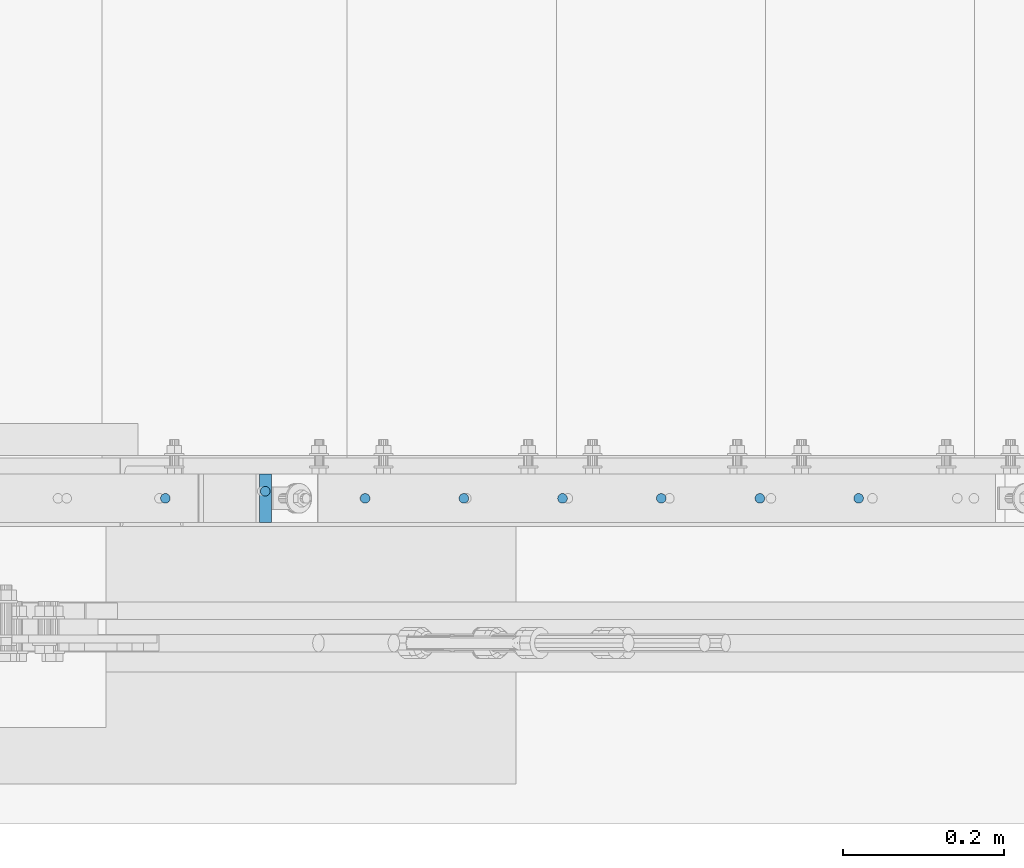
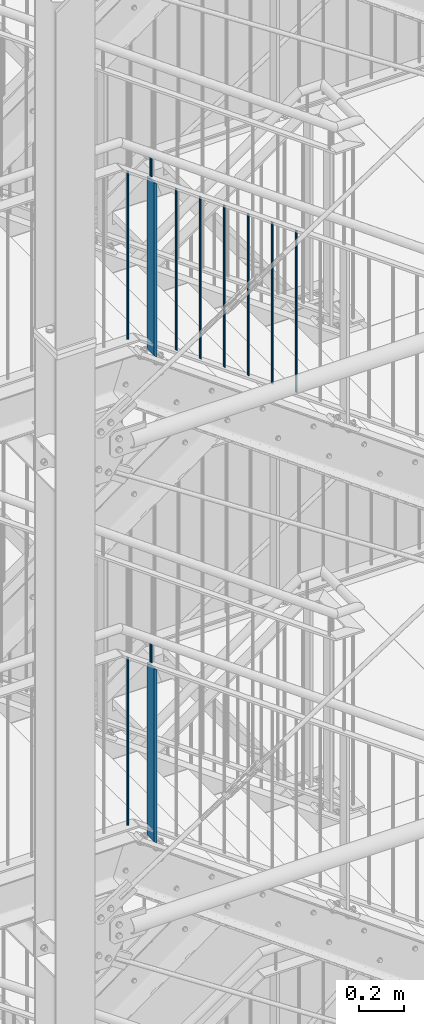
# One storey, part 36 of 831: 12 columns.
"""IFC2X3 building model written with IfcOpenShell, lengths in millimetres."""

from ifc_helpers import new_model, entity, si_unit, converted_unit, frame, origin, origin_with_axes, origin_2d, place, context, project, spatial, rectangle, circle, extrude, clip, halfspace, material, element, save


model = new_model("IFC2X3")

# Units and contexts
model_context = context("Model", 3, precision=1e-09, world=origin_with_axes())
ifc_project = project(units=[si_unit("LENGTHUNIT", "METRE", prefix="MILLI"), si_unit("AREAUNIT", "SQUARE_METRE"), si_unit("VOLUMEUNIT", "CUBIC_METRE"), converted_unit("PLANEANGLEUNIT", "DEGREE", entity("IfcPlaneAngleMeasure", 0.01745329), si_unit("PLANEANGLEUNIT", "RADIAN"), dimensions=[0, 0, 0, 0, 0, 0, 0])], contexts=[model_context])

# Site, building, storey
site_placement = place(None, origin_with_axes())
site = spatial("IfcSite", under=ifc_project, at=site_placement, Name="Site", CompositionType="ELEMENT")
building_placement = place(site_placement, origin_with_axes())
building = spatial("IfcBuilding", under=site, at=building_placement, Name="Struktur 1", CompositionType="ELEMENT")
storey_placement = place(building_placement, origin_with_axes())
storey = spatial("IfcBuildingStorey", under=building, at=storey_placement, Name="Default Storey", CompositionType="ELEMENT", Elevation=0.0)

# Columns
ifc_material = material(Name="S235JR")
column_1_placement = place(None, frame((5270.541831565, 4526.736971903, 10939.508705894), z_axis=(0.0, 0.0, 1.0), x_axis=(-1.0, 0.0, 0.0)))
element("IfcColumn", 1, at=column_1_placement, inside=storey, material=ifc_material, Name="Railing_Picket_Landing#76", ObjectType="Railing_Picket_Landing#76", context=model_context, shape_type="Clipping", body=[
    clip(extrude(circle(Radius=6.0, at=origin_2d()), origin(), (0.0, 0.0, -1.0), 917.508705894), halfspace(frame((-1728.344233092, 4526.736971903, -1260.198190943), z_axis=(0.585945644, 0.0, -0.810350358), x_axis=(0.0, 1.0, 0.0)), True)),
])
column_2_placement = place(None, frame((5394.791831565, 4535.536971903, 10962.006739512), z_axis=(0.0, 0.0, 1.0), x_axis=(0.0, 1.0, 0.0)))
element("IfcColumn", 2, at=column_2_placement, inside=storey, material=ifc_material, Name="Bar#11", ObjectType="Bar#11", context=model_context, shape_type="Clipping", body=[
    clip(clip(extrude(circle(Radius=6.0, at=origin_2d()), origin(), (0.0, 0.0, -1.0), 120.942253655), halfspace(frame((-4535.536971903, -1609.954861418, -1274.591100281), z_axis=(0.0, -0.585945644, 0.810350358), x_axis=(1.0, 0.0, 0.0)), True)), halfspace(frame((-4535.536971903, -1657.435815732, -1208.925950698), z_axis=(0.0, 0.585945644, -0.810350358), x_axis=(-1.0, 0.0, 0.0)), True)),
])
column_3_placement = place(None, frame((5394.791831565, 4526.736971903, 10877.355669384), z_axis=(0.0, 0.0, 1.0), x_axis=(-1.0, 0.0, 0.0)))
element("IfcColumn", 3, at=column_3_placement, inside=storey, material=ifc_material, Name="Railing_Post_Stair#11", ObjectType="Railing_Post_Stair#11", context=model_context, shape_type="Clipping", body=[
    clip(clip(extrude(rectangle(XDim=15.0, YDim=60.0, at=origin_2d()), origin(), (0.0, 0.0, -1.0), 1013.13824851), halfspace(frame((-1159.274559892, 4526.736971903, -1813.221298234), z_axis=(-0.585945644, 0.0, 0.810350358), x_axis=(0.0, -1.0, 0.0)), True)), halfspace(frame((-1604.094233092, 4526.736971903, -1198.045154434), z_axis=(0.585945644, 0.0, -0.810350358), x_axis=(0.0, 1.0, 0.0)), True)),
])
column_4_placement = place(None, frame((5394.791831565, 4526.736971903, 13504.573032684), z_axis=(0.0, 0.0, 1.0), x_axis=(-1.0, 0.0, 0.0)))
element("IfcColumn", 4, at=column_4_placement, inside=storey, material=ifc_material, Name="Railing_Post_Stair#11", ObjectType="Railing_Post_Stair#11", context=model_context, shape_type="Clipping", body=[
    clip(clip(extrude(rectangle(XDim=15.0, YDim=60.0, at=origin_2d()), origin(), (0.0, 0.0, -1.0), 1013.129684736), halfspace(frame((-2398.549421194, 4526.736971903, -2706.03395139), z_axis=(-0.585213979, 0.0, 0.810878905), x_axis=(0.0, -1.0, 0.0)), True)), halfspace(frame((-2843.122965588, 4526.736971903, -2090.027974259), z_axis=(0.585213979, 0.0, -0.810878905), x_axis=(0.0, 1.0, 0.0)), True)),
])
column_5_placement = place(None, frame((6132.791950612, 4526.736971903, 12944.28469116), z_axis=(0.0, 0.0, 1.0), x_axis=(-1.0, 0.0, 0.0)))
element("IfcColumn", 5, at=column_5_placement, inside=storey, material=ifc_material, Name="Railing_Picket_Stair#70", ObjectType="Railing_Picket_Stair#70", context=model_context, shape_type="Clipping", body=[
    clip(clip(extrude(circle(Radius=6.0, at=origin_2d()), origin(), (0.0, 0.0, -1.0), 896.125751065), halfspace(frame((-2105.122846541, 4526.736971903, -1529.739632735), z_axis=(0.585213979, 0.0, -0.810878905), x_axis=(0.0, 1.0, 0.0)), True)), halfspace(frame((-1689.8100011, 4526.736971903, -2105.201664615), z_axis=(-0.585213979, 0.0, 0.810878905), x_axis=(0.0, -1.0, 0.0)), True)),
])
column_6_placement = place(None, frame((6010.041926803, 4526.736971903, 13032.873787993), z_axis=(0.0, 0.0, 1.0), x_axis=(-1.0, 0.0, 0.0)))
element("IfcColumn", 6, at=column_6_placement, inside=storey, material=ifc_material, Name="Railing_Picket_Stair#71", ObjectType="Railing_Picket_Stair#71", context=model_context, shape_type="Clipping", body=[
    clip(clip(extrude(circle(Radius=6.0, at=origin_2d()), origin(), (0.0, 0.0, -1.0), 896.125751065), halfspace(frame((-2227.87287035, 4526.736971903, -1618.328729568), z_axis=(0.585213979, 0.0, -0.810878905), x_axis=(0.0, 1.0, 0.0)), True)), halfspace(frame((-1812.56002491, 4526.736971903, -2193.790761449), z_axis=(-0.585213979, 0.0, 0.810878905), x_axis=(0.0, -1.0, 0.0)), True)),
])
column_7_placement = place(None, frame((5887.291902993, 4526.736971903, 13121.462884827), z_axis=(0.0, 0.0, 1.0), x_axis=(-1.0, 0.0, 0.0)))
element("IfcColumn", 7, at=column_7_placement, inside=storey, material=ifc_material, Name="Railing_Picket_Stair#72", ObjectType="Railing_Picket_Stair#72", context=model_context, shape_type="Clipping", body=[
    clip(clip(extrude(circle(Radius=6.0, at=origin_2d()), origin(), (0.0, 0.0, -1.0), 896.125751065), halfspace(frame((-2350.62289416, 4526.736971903, -1706.917826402), z_axis=(0.585213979, 0.0, -0.810878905), x_axis=(0.0, 1.0, 0.0)), True)), halfspace(frame((-1935.310048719, 4526.736971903, -2282.379858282), z_axis=(-0.585213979, 0.0, 0.810878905), x_axis=(0.0, -1.0, 0.0)), True)),
])
column_8_placement = place(None, frame((5764.541879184, 4526.736971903, 13210.05198166), z_axis=(0.0, 0.0, 1.0), x_axis=(-1.0, 0.0, 0.0)))
element("IfcColumn", 8, at=column_8_placement, inside=storey, material=ifc_material, Name="Railing_Picket_Stair#73", ObjectType="Railing_Picket_Stair#73", context=model_context, shape_type="Clipping", body=[
    clip(clip(extrude(circle(Radius=6.0, at=origin_2d()), origin(), (0.0, 0.0, -1.0), 896.125751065), halfspace(frame((-2473.372917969, 4526.736971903, -1795.506923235), z_axis=(0.585213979, 0.0, -0.810878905), x_axis=(0.0, 1.0, 0.0)), True)), halfspace(frame((-2058.060072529, 4526.736971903, -2370.968955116), z_axis=(-0.585213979, 0.0, 0.810878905), x_axis=(0.0, -1.0, 0.0)), True)),
])
column_9_placement = place(None, frame((5641.791855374, 4526.736971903, 13298.641078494), z_axis=(0.0, 0.0, 1.0), x_axis=(-1.0, 0.0, 0.0)))
element("IfcColumn", 9, at=column_9_placement, inside=storey, material=ifc_material, Name="Railing_Picket_Stair#74", ObjectType="Railing_Picket_Stair#74", context=model_context, shape_type="Clipping", body=[
    clip(clip(extrude(circle(Radius=6.0, at=origin_2d()), origin(), (0.0, 0.0, -1.0), 896.125751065), halfspace(frame((-2596.122941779, 4526.736971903, -1884.096020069), z_axis=(0.585213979, 0.0, -0.810878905), x_axis=(0.0, 1.0, 0.0)), True)), halfspace(frame((-2180.810096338, 4526.736971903, -2459.558051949), z_axis=(-0.585213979, 0.0, 0.810878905), x_axis=(0.0, -1.0, 0.0)), True)),
])
column_10_placement = place(None, frame((5519.041831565, 4526.736971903, 13387.230175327), z_axis=(0.0, 0.0, 1.0), x_axis=(-1.0, 0.0, 0.0)))
element("IfcColumn", 10, at=column_10_placement, inside=storey, material=ifc_material, Name="Railing_Picket_Stair#75", ObjectType="Railing_Picket_Stair#75", context=model_context, shape_type="Clipping", body=[
    clip(clip(extrude(circle(Radius=6.0, at=origin_2d()), origin(), (0.0, 0.0, -1.0), 896.125751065), halfspace(frame((-2718.872965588, 4526.736971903, -1972.685116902), z_axis=(0.585213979, 0.0, -0.810878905), x_axis=(0.0, 1.0, 0.0)), True)), halfspace(frame((-2303.560120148, 4526.736971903, -2548.147148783), z_axis=(-0.585213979, 0.0, 0.810878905), x_axis=(0.0, -1.0, 0.0)), True)),
])
column_11_placement = place(None, frame((5270.541831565, 4526.736971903, 13566.573444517), z_axis=(0.0, 0.0, 1.0), x_axis=(-1.0, 0.0, 0.0)))
element("IfcColumn", 11, at=column_11_placement, inside=storey, material=ifc_material, Name="Railing_Picket_Landing#76", ObjectType="Railing_Picket_Landing#76", context=model_context, shape_type="Clipping", body=[
    clip(extrude(circle(Radius=6.0, at=origin_2d()), origin(), (0.0, 0.0, -1.0), 917.573444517), halfspace(frame((-2967.372965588, 4526.736971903, -2152.028386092), z_axis=(0.585213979, 0.0, -0.810878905), x_axis=(0.0, 1.0, 0.0)), True)),
])
column_12_placement = place(None, frame((5394.791831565, 4535.536971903, 13589.234107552), z_axis=(0.0, 0.0, 1.0), x_axis=(0.0, 1.0, 0.0)))
element("IfcColumn", 12, at=column_12_placement, inside=storey, material=ifc_material, Name="Bar#11", ObjectType="Bar#11", context=model_context, shape_type="Clipping", body=[
    clip(clip(extrude(circle(Radius=6.0, at=origin_2d()), origin(), (0.0, 0.0, -1.0), 120.928603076), halfspace(frame((-4535.536971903, -2848.976275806, -2166.578638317), z_axis=(0.0, -0.585213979, 0.810878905), x_axis=(1.0, 0.0, 0.0)), True)), halfspace(frame((-4535.536971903, -2896.428872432, -2100.827800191), z_axis=(0.0, 0.585213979, -0.810878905), x_axis=(-1.0, 0.0, 0.0)), True)),
])

save(model, "model.ifc")
